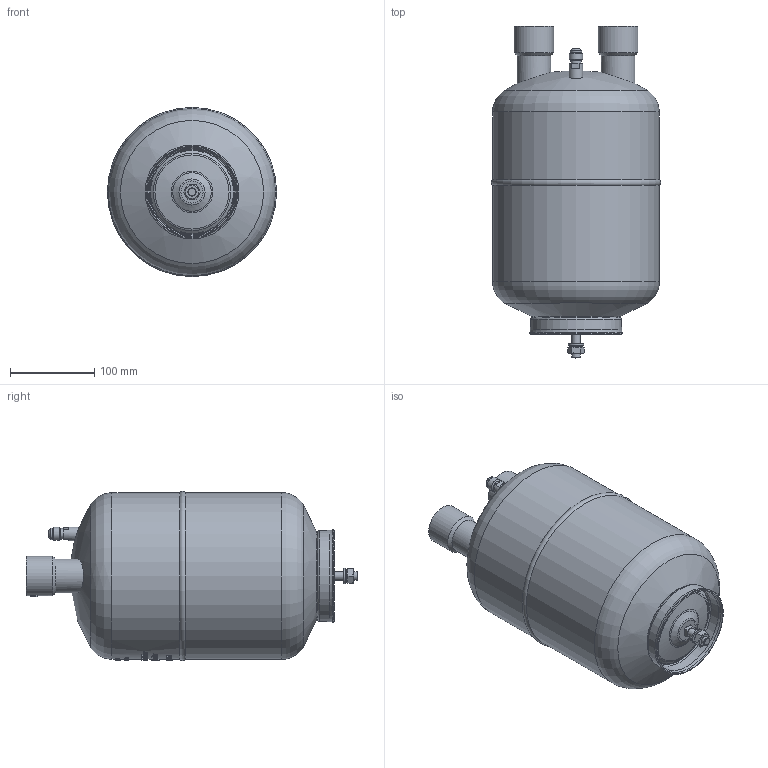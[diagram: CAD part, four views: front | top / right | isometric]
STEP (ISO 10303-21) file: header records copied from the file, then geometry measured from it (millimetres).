
FILE_DESCRIPTION(/* description */ (''),/* implementation_level */ '2;1');
FILE_NAME(/* name */ 'P:\OS\OS-42H\OS-42H.stp',/* time_stamp */ '2017-10-04T08:08:04+02:00',/* author */ ('neufeld'),/* organization */ (''),/* preprocessor_version */ 'ST-DEVELOPER v16.1',/* originating_system */ 'Autodesk Inventor 2016',/* authorisation */ '');
FILE_SCHEMA (('CONFIG_CONTROL_DESIGN','AUTOMOTIVE_DESIGN { 1 0 10303 214 3 1 1 }'));
Length unit declared in the file: millimetre
Products named in the file (2): OS-42H; OS-42H_1
Assembly tree (1 placements, depth 2):
  OS-42H_1
    OS-42H
Bounding box: 200.97 x 394.18 x 200.97 mm (x, y, z)
Volume: 8385585.9 mm3; surface area: 256797.7 mm2
Topology: 2 solids, 2 shells, 1000 faces, 2681 edges, 1772 vertices
Faces by surface type: plane 538, bspline 326, cylinder 100, cone 19, torus 14, sphere 3
Full cylindrical faces by diameter (mm): 7.2 x1, 10 x2, 12.9 x1, 13.5 x1, 15.7 x1, 16 x1, 40 x2, 42.2 x2, 47 x2, 198 x2
Entity records: 37474 total; most frequent: CARTESIAN_POINT 14256, ORIENTED_EDGE 5276, DIRECTION 3997, EDGE_CURVE 2634, VERTEX_POINT 1767, AXIS2_PLACEMENT_3D 1368, LINE 1261, VECTOR 1261
